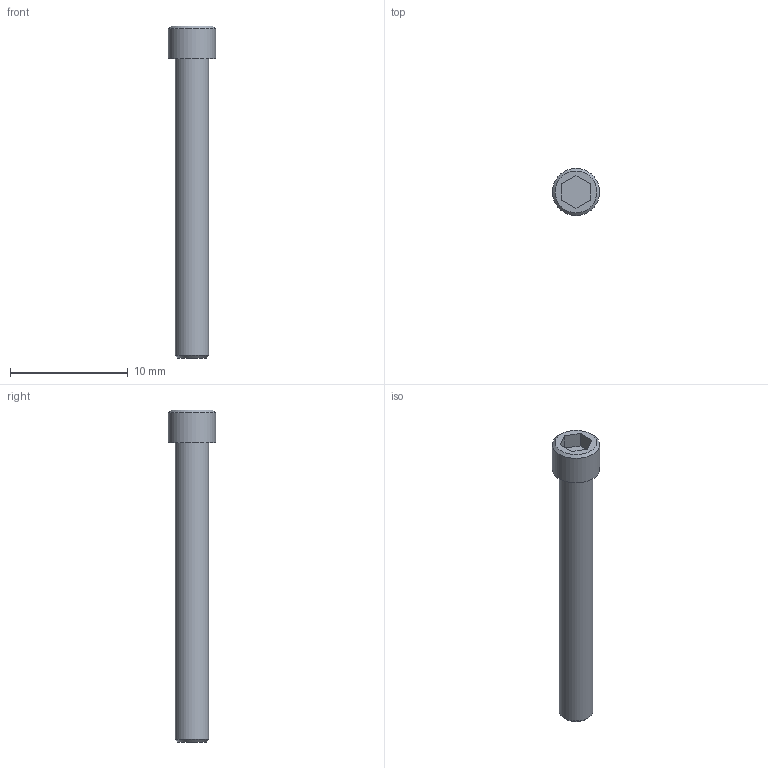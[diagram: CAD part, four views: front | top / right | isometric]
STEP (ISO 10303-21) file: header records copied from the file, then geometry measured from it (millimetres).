
FILE_DESCRIPTION((''),'2;1');
FILE_NAME('C:\Users\Stan\Desktop\import\SHCS 4-40 UNCx1.ipt.step','2011-08-18T17:44:37',(''),(''),'Autodesk Inventor 2012','Autodesk Inventor 2012','');
FILE_SCHEMA(('AUTOMOTIVE_DESIGN { 1 0 10303 214 1 1 1 1 }'));
Length unit declared in the file: inch
Products named in the file (1): SHCS 4-40 UNCx1
Bounding box: 4.01 x 4.01 x 28.19 mm (x, y, z)
Volume: 189.9 mm3; surface area: 295.2 mm2
Topology: 1 solids, 1 shells, 14 faces, 28 edges, 18 vertices
Faces by surface type: plane 10, cone 2, cylinder 2
Full cylindrical faces by diameter (mm): 2.845 x1, 4.013 x1
Entity records: 391 total; most frequent: DIRECTION 60, CARTESIAN_POINT 57, ORIENTED_EDGE 48, EDGE_CURVE 24, AXIS2_PLACEMENT_3D 21, EDGE_LOOP 20, VERTEX_POINT 18, VECTOR 18
